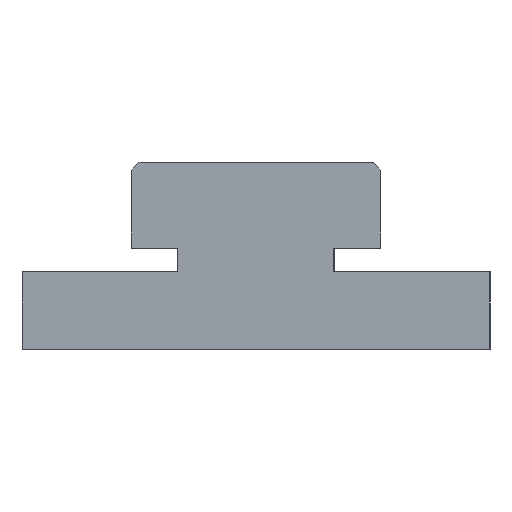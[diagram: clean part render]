
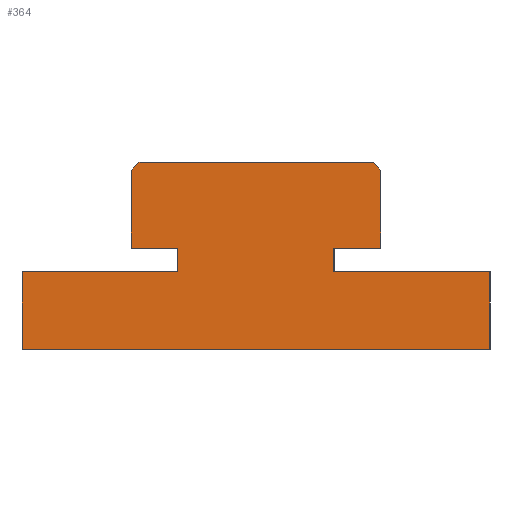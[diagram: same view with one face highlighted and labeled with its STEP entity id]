
A CAD part, left-side view. The second image highlights one B-rep face of the part: STEP entity #364.
In plain terms, the highlighted planar face has unit normal (-1, 0, 0).
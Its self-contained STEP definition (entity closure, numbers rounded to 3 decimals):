
#5 = ORIENTED_EDGE ( 'NONE', *, *, #399, .F. ) ;
#9 = VECTOR ( 'NONE', #122, 1000. ) ;
#10 = CARTESIAN_POINT ( 'NONE',  ( 0., 0., 0. ) ) ;
#13 = EDGE_CURVE ( 'NONE', #424, #515, #123, .T. ) ;
#14 = VERTEX_POINT ( 'NONE', #49 ) ;
#17 = DIRECTION ( 'NONE',  ( 0., 0., 1. ) ) ;
#19 = EDGE_CURVE ( 'NONE', #400, #389, #450, .T. ) ;
#22 = CARTESIAN_POINT ( 'NONE',  ( 0., 15., -7. ) ) ;
#23 = ORIENTED_EDGE ( 'NONE', *, *, #428, .F. ) ;
#24 = VERTEX_POINT ( 'NONE', #140 ) ;
#27 = VECTOR ( 'NONE', #377, 1000. ) ;
#36 = DIRECTION ( 'NONE',  ( 0., 0., 1. ) ) ;
#42 = LINE ( 'NONE', #351, #387 ) ;
#47 = CARTESIAN_POINT ( 'NONE',  ( 0., 15., -7. ) ) ;
#49 = CARTESIAN_POINT ( 'NONE',  ( 0., 8., -5.5 ) ) ;
#56 = ORIENTED_EDGE ( 'NONE', *, *, #337, .F. ) ;
#62 = CARTESIAN_POINT ( 'NONE',  ( 0., 15., -12. ) ) ;
#66 = VERTEX_POINT ( 'NONE', #305 ) ;
#71 = EDGE_CURVE ( 'NONE', #437, #317, #320, .T. ) ;
#76 = ORIENTED_EDGE ( 'NONE', *, *, #13, .F. ) ;
#80 = ORIENTED_EDGE ( 'NONE', *, *, #326, .F. ) ;
#86 = EDGE_CURVE ( 'NONE', #14, #309, #256, .T. ) ;
#90 = LINE ( 'NONE', #47, #353 ) ;
#97 = DIRECTION ( 'NONE',  ( 0., -1., 0. ) ) ;
#98 = DIRECTION ( 'NONE',  ( 0., 1., 0. ) ) ;
#100 = LINE ( 'NONE', #427, #386 ) ;
#114 = VECTOR ( 'NONE', #492, 1000. ) ;
#122 = DIRECTION ( 'NONE',  ( 0., 1., 0. ) ) ;
#123 = LINE ( 'NONE', #333, #27 ) ;
#125 = CARTESIAN_POINT ( 'NONE',  ( 0., 7.5, 0. ) ) ;
#139 = ORIENTED_EDGE ( 'NONE', *, *, #222, .F. ) ;
#140 = CARTESIAN_POINT ( 'NONE',  ( 0., -15., -12. ) ) ;
#143 = CARTESIAN_POINT ( 'NONE',  ( 0., 5., -7. ) ) ;
#144 = DIRECTION ( 'NONE',  ( 0., 1., 0. ) ) ;
#162 = LINE ( 'NONE', #462, #484 ) ;
#168 = EDGE_CURVE ( 'NONE', #309, #352, #395, .T. ) ;
#170 = CARTESIAN_POINT ( 'NONE',  ( 0., -7.5, 0. ) ) ;
#182 = CARTESIAN_POINT ( 'NONE',  ( 0., -7.5, 0. ) ) ;
#191 = VECTOR ( 'NONE', #144, 1000. ) ;
#194 = CARTESIAN_POINT ( 'NONE',  ( 0., 8., -5.5 ) ) ;
#207 = CARTESIAN_POINT ( 'NONE',  ( 0., 5., -5.5 ) ) ;
#208 = DIRECTION ( 'NONE',  ( 0., -0.707, 0.707 ) ) ;
#209 = LINE ( 'NONE', #380, #240 ) ;
#212 = LINE ( 'NONE', #170, #114 ) ;
#222 = EDGE_CURVE ( 'NONE', #66, #437, #90, .T. ) ;
#225 = CARTESIAN_POINT ( 'NONE',  ( 0., 8., -0.5 ) ) ;
#232 = ORIENTED_EDGE ( 'NONE', *, *, #265, .F. ) ;
#235 = EDGE_LOOP ( 'NONE', ( #261, #242, #23, #56, #315, #139, #271, #80, #379, #76, #475, #5, #477, #232 ) ) ;
#240 = VECTOR ( 'NONE', #254, 1000. ) ;
#242 = ORIENTED_EDGE ( 'NONE', *, *, #86, .F. ) ;
#247 = LINE ( 'NONE', #448, #9 ) ;
#254 = DIRECTION ( 'NONE',  ( 0., -1., 0. ) ) ;
#256 = LINE ( 'NONE', #280, #341 ) ;
#261 = ORIENTED_EDGE ( 'NONE', *, *, #168, .F. ) ;
#262 = LINE ( 'NONE', #62, #359 ) ;
#263 = PLANE ( 'NONE',  #335 ) ;
#265 = EDGE_CURVE ( 'NONE', #352, #400, #212, .T. ) ;
#268 = CARTESIAN_POINT ( 'NONE',  ( 0., -7.5, 0. ) ) ;
#271 = ORIENTED_EDGE ( 'NONE', *, *, #357, .F. ) ;
#277 = VERTEX_POINT ( 'NONE', #454 ) ;
#280 = CARTESIAN_POINT ( 'NONE',  ( 0., 8., -0.5 ) ) ;
#305 = CARTESIAN_POINT ( 'NONE',  ( 0., 15., -12. ) ) ;
#306 = CARTESIAN_POINT ( 'NONE',  ( 0., -8., -5.5 ) ) ;
#309 = VERTEX_POINT ( 'NONE', #225 ) ;
#315 = ORIENTED_EDGE ( 'NONE', *, *, #71, .F. ) ;
#317 = VERTEX_POINT ( 'NONE', #143 ) ;
#320 = LINE ( 'NONE', #350, #509 ) ;
#326 = EDGE_CURVE ( 'NONE', #277, #24, #100, .T. ) ;
#333 = CARTESIAN_POINT ( 'NONE',  ( 0., -5., -5.5 ) ) ;
#335 = AXIS2_PLACEMENT_3D ( 'NONE', #10, #390, #392 ) ;
#337 = EDGE_CURVE ( 'NONE', #317, #493, #162, .T. ) ;
#341 = VECTOR ( 'NONE', #36, 1000. ) ;
#350 = CARTESIAN_POINT ( 'NONE',  ( 0., 5., -7. ) ) ;
#351 = CARTESIAN_POINT ( 'NONE',  ( 0., -8., -0.5 ) ) ;
#352 = VERTEX_POINT ( 'NONE', #425 ) ;
#353 = VECTOR ( 'NONE', #409, 1000. ) ;
#357 = EDGE_CURVE ( 'NONE', #24, #66, #262, .T. ) ;
#359 = VECTOR ( 'NONE', #98, 1000. ) ;
#364 = ADVANCED_FACE ( 'NONE', ( #373 ), #263, .T. ) ;
#373 = FACE_OUTER_BOUND ( 'NONE', #235, .T. ) ;
#377 = DIRECTION ( 'NONE',  ( 0., 0., -1. ) ) ;
#379 = ORIENTED_EDGE ( 'NONE', *, *, #503, .F. ) ;
#380 = CARTESIAN_POINT ( 'NONE',  ( 0., -5., -7. ) ) ;
#386 = VECTOR ( 'NONE', #504, 1000. ) ;
#387 = VECTOR ( 'NONE', #501, 1000. ) ;
#389 = VERTEX_POINT ( 'NONE', #466 ) ;
#390 = DIRECTION ( 'NONE',  ( -1., 0., 0. ) ) ;
#391 = DIRECTION ( 'NONE',  ( 0., -0.707, -0.707 ) ) ;
#392 = DIRECTION ( 'NONE',  ( 0., 0., 1. ) ) ;
#395 = LINE ( 'NONE', #125, #419 ) ;
#399 = EDGE_CURVE ( 'NONE', #389, #405, #42, .T. ) ;
#400 = VERTEX_POINT ( 'NONE', #182 ) ;
#405 = VERTEX_POINT ( 'NONE', #306 ) ;
#409 = DIRECTION ( 'NONE',  ( 0., 0., 1. ) ) ;
#413 = CARTESIAN_POINT ( 'NONE',  ( 0., -5., -7. ) ) ;
#419 = VECTOR ( 'NONE', #208, 1000. ) ;
#424 = VERTEX_POINT ( 'NONE', #512 ) ;
#425 = CARTESIAN_POINT ( 'NONE',  ( 0., 7.5, 0. ) ) ;
#427 = CARTESIAN_POINT ( 'NONE',  ( 0., -15., -7. ) ) ;
#428 = EDGE_CURVE ( 'NONE', #493, #14, #522, .T. ) ;
#437 = VERTEX_POINT ( 'NONE', #22 ) ;
#448 = CARTESIAN_POINT ( 'NONE',  ( 0., -8., -5.5 ) ) ;
#450 = LINE ( 'NONE', #268, #467 ) ;
#454 = CARTESIAN_POINT ( 'NONE',  ( 0., -15., -7. ) ) ;
#462 = CARTESIAN_POINT ( 'NONE',  ( 0., 5., -5.5 ) ) ;
#466 = CARTESIAN_POINT ( 'NONE',  ( 0., -8., -0.5 ) ) ;
#467 = VECTOR ( 'NONE', #391, 1000. ) ;
#475 = ORIENTED_EDGE ( 'NONE', *, *, #485, .F. ) ;
#477 = ORIENTED_EDGE ( 'NONE', *, *, #19, .F. ) ;
#484 = VECTOR ( 'NONE', #17, 1000. ) ;
#485 = EDGE_CURVE ( 'NONE', #405, #424, #247, .T. ) ;
#492 = DIRECTION ( 'NONE',  ( 0., -1., 0. ) ) ;
#493 = VERTEX_POINT ( 'NONE', #207 ) ;
#501 = DIRECTION ( 'NONE',  ( 0., 0., -1. ) ) ;
#503 = EDGE_CURVE ( 'NONE', #515, #277, #209, .T. ) ;
#504 = DIRECTION ( 'NONE',  ( 0., 0., -1. ) ) ;
#509 = VECTOR ( 'NONE', #97, 1000. ) ;
#512 = CARTESIAN_POINT ( 'NONE',  ( 0., -5., -5.5 ) ) ;
#515 = VERTEX_POINT ( 'NONE', #413 ) ;
#522 = LINE ( 'NONE', #194, #191 ) ;
